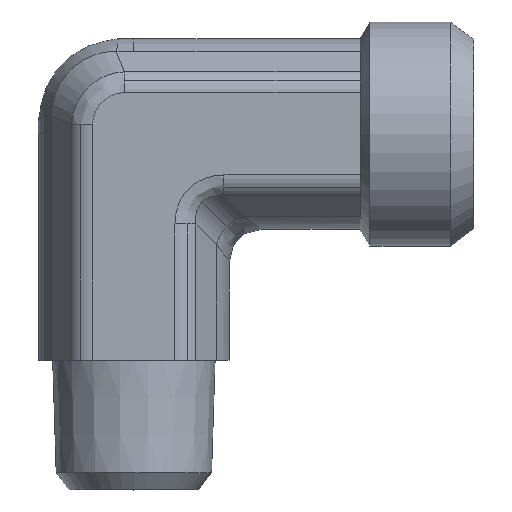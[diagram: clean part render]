
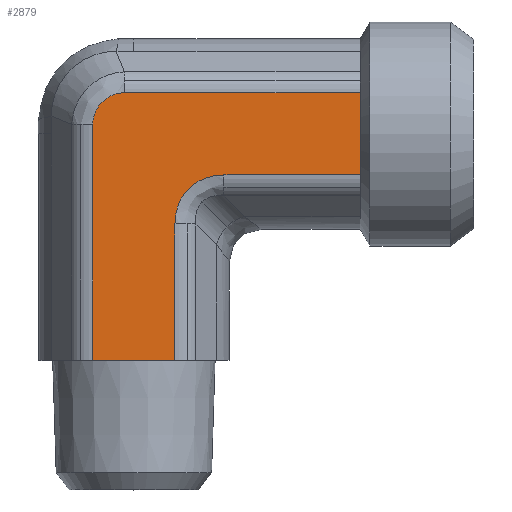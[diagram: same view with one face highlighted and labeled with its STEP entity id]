
A CAD part, top view. The second image highlights one B-rep face of the part: STEP entity #2879.
In plain terms, the highlighted planar face has unit normal (0, 0, 1) as drawn and (0, -1, 0) by its records, which use the part's own axes.
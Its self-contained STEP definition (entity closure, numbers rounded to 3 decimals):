
#361=CARTESIAN_POINT('',(1.071,-5.9,2.54));
#362=VERTEX_POINT('',#361);
#370=CARTESIAN_POINT('',(9.5,-5.9,2.54));
#371=VERTEX_POINT('',#370);
#372=CARTESIAN_POINT('',(1.071,-5.9,2.54));
#373=DIRECTION('',(1.0,0.0,0.0));
#374=VECTOR('',#373,8.429);
#375=LINE('',#372,#374);
#376=EDGE_CURVE('',#362,#371,#375,.T.);
#485=CARTESIAN_POINT('',(-7.04,-5.9,-0.585));
#486=VERTEX_POINT('',#485);
#494=CARTESIAN_POINT('',(-7.04,-5.9,14.0));
#495=VERTEX_POINT('',#494);
#496=CARTESIAN_POINT('',(-7.04,-5.9,-0.585));
#497=DIRECTION('',(0.0,0.0,1.0));
#498=VECTOR('',#497,14.585);
#499=LINE('',#496,#498);
#500=EDGE_CURVE('',#486,#495,#499,.T.);
#1836=CARTESIAN_POINT('',(-4.5,-5.9,14.0));
#1837=VERTEX_POINT('',#1836);
#1951=CARTESIAN_POINT('',(-4.5,-5.9,14.0));
#1952=DIRECTION('',(-1.0,0.0,0.0));
#1953=VECTOR('',#1952,2.54);
#1954=LINE('',#1951,#1953);
#1955=EDGE_CURVE('',#1837,#495,#1954,.T.);
#2028=CARTESIAN_POINT('',(-1.96,-5.9,14.0));
#2029=VERTEX_POINT('',#2028);
#2030=CARTESIAN_POINT('',(-1.96,-5.9,14.0));
#2031=DIRECTION('',(-1.0,0.0,0.0));
#2032=VECTOR('',#2031,2.54);
#2033=LINE('',#2030,#2032);
#2034=EDGE_CURVE('',#2029,#1837,#2033,.T.);
#2122=CARTESIAN_POINT('',(9.5,-5.9,-2.54));
#2123=VERTEX_POINT('',#2122);
#2124=CARTESIAN_POINT('',(9.5,-5.9,-2.54));
#2125=DIRECTION('',(0.0,0.0,1.0));
#2126=VECTOR('',#2125,5.081);
#2127=LINE('',#2124,#2126);
#2128=EDGE_CURVE('',#2123,#371,#2127,.T.);
#2564=CARTESIAN_POINT('',(-5.085,-5.9,-2.54));
#2565=VERTEX_POINT('',#2564);
#2573=CARTESIAN_POINT('',(-7.04,-5.9,-0.585));
#2574=CARTESIAN_POINT('',(-7.04,-5.9,-0.712));
#2575=CARTESIAN_POINT('',(-7.027,-5.9,-0.841));
#2576=CARTESIAN_POINT('',(-6.961,-5.9,-1.168));
#2577=CARTESIAN_POINT('',(-6.889,-5.9,-1.36));
#2578=CARTESIAN_POINT('',(-6.626,-5.9,-1.825));
#2579=CARTESIAN_POINT('',(-6.394,-5.9,-2.068));
#2580=CARTESIAN_POINT('',(-5.806,-5.9,-2.436));
#2581=CARTESIAN_POINT('',(-5.446,-5.9,-2.54));
#2582=CARTESIAN_POINT('',(-5.085,-5.9,-2.54));
#2583=B_SPLINE_CURVE_WITH_KNOTS('',3,(#2573,#2574,#2575,#2576,#2577,#2578,#2579,#2580,#2581,#2582),.UNSPECIFIED.,.F.,.U.,(4,2,2,2,4),(-3.052,-2.67,-2.06,-1.083,0.0),.UNSPECIFIED.);
#2584=EDGE_CURVE('',#2565,#486,#2583,.F.);
#2611=CARTESIAN_POINT('',(9.5,-5.9,-2.54));
#2612=DIRECTION('',(-1.0,0.0,0.0));
#2613=VECTOR('',#2612,14.585);
#2614=LINE('',#2611,#2613);
#2615=EDGE_CURVE('',#2123,#2565,#2614,.T.);
#2747=CARTESIAN_POINT('',(-1.96,-5.9,5.571));
#2748=VERTEX_POINT('',#2747);
#2749=CARTESIAN_POINT('',(-1.96,-5.9,14.0));
#2750=DIRECTION('',(0.0,0.0,-1.0));
#2751=VECTOR('',#2750,8.429);
#2752=LINE('',#2749,#2751);
#2753=EDGE_CURVE('',#2029,#2748,#2752,.T.);
#2836=CARTESIAN_POINT('',(2.082,-5.9,6.582));
#2837=DIRECTION('',(0.,-1.0,0.));
#2838=DIRECTION('',(-0.707,0.,-0.707));
#2839=AXIS2_PLACEMENT_3D('',#2836,#2837,#2838);
#2840=ELLIPSE('',#2839,4.518,3.5);
#2841=EDGE_CURVE('',#2748,#362,#2840,.T.);
#2863=CARTESIAN_POINT('',(-4.5,-5.9,-3.175));
#2864=DIRECTION('',(0.0,-1.0,0.0));
#2865=DIRECTION('',(0.0,0.0,-1.0));
#2866=AXIS2_PLACEMENT_3D('',#2863,#2864,#2865);
#2867=PLANE('',#2866);
#2868=ORIENTED_EDGE('',*,*,#2615,.F.);
#2869=ORIENTED_EDGE('',*,*,#2128,.T.);
#2870=ORIENTED_EDGE('',*,*,#376,.F.);
#2871=ORIENTED_EDGE('',*,*,#2841,.F.);
#2872=ORIENTED_EDGE('',*,*,#2753,.F.);
#2873=ORIENTED_EDGE('',*,*,#2034,.T.);
#2874=ORIENTED_EDGE('',*,*,#1955,.T.);
#2875=ORIENTED_EDGE('',*,*,#500,.F.);
#2876=ORIENTED_EDGE('',*,*,#2584,.F.);
#2877=EDGE_LOOP('',(#2868,#2869,#2870,#2871,#2872,#2873,#2874,#2875,#2876));
#2878=FACE_OUTER_BOUND('',#2877,.T.);
#2879=ADVANCED_FACE('',(#2878),#2867,.T.);
